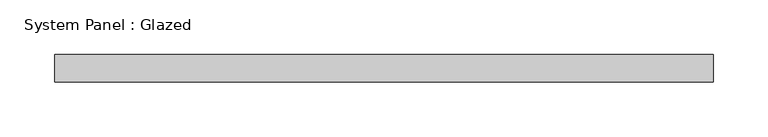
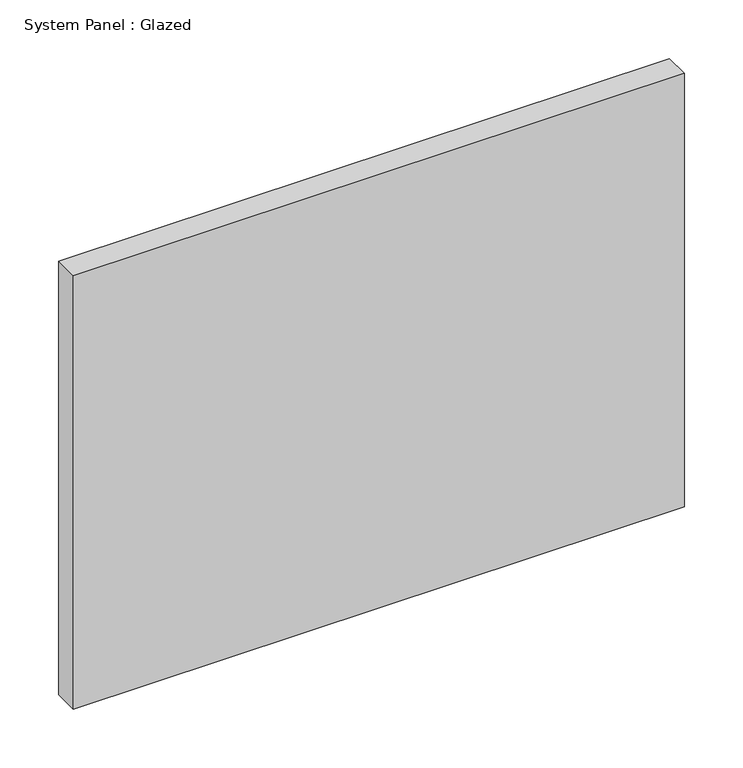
"""IFC4 building model written with IfcOpenShell, lengths in millimetres: plate geometry, System Panel : Glazed."""

from ifc_helpers import new_model, si_unit, origin, origin_with_axes, place, context, project, spatial, polyline, outline, extrude, source, transform, mapped, element, save


def system_panel_glazed_e38ec663(model_context):
    return source(origin(), model_context, "Body", "SweptSolid", [
        extrude(outline(polyline([(299.9999999, 24.5), (-299.9999999, 24.5), (-299.9999999, 49.5), (299.9999999, 49.5), (299.9999999, 24.5)])), origin_with_axes(), (0.0, 0.0, 1.0), 450.0),
    ])


if __name__ == "__main__":
    model = new_model("IFC4")
    model_context = context("Model", 3, world=origin())
    ifc_project = project(units=[si_unit("LENGTHUNIT", "METRE", prefix="MILLI")], contexts=[model_context])
    site = spatial("IfcSite", under=ifc_project)
    building = spatial("IfcBuilding", under=site)
    placement = place(None, origin())
    system_panel_glazed_shape = system_panel_glazed_e38ec663(model_context)
    element("IfcPlate", 1, ObjectType="System Panel : Glazed", at=placement, inside=building, context=model_context, shape_type="MappedRepresentation", body=[
        mapped(system_panel_glazed_shape, transform((0.0, 0.0, 0.0), x_axis=(1.0, 0.0, 0.0), y_axis=(0.0, 1.0, 0.0), z_axis=(0.0, 0.0, 1.0))),
    ])
    save(model, "model.ifc")
